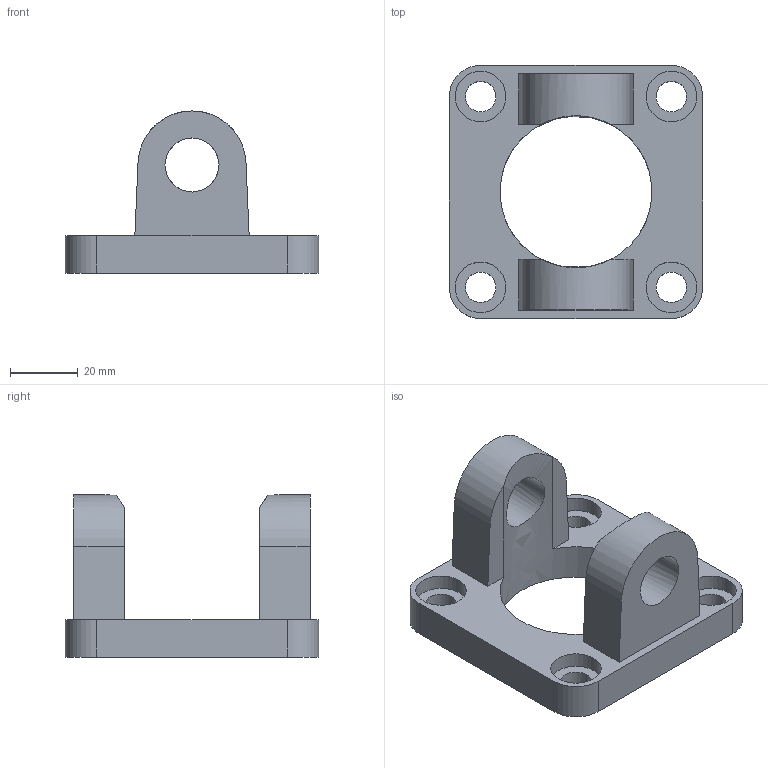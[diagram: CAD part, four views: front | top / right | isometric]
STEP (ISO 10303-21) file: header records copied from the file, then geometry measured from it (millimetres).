
FILE_DESCRIPTION((''),'2;1');
FILE_NAME('I:\Area Tecnica\Documenti\A-Mauro\_Inventor\LIBRERIE\FISSAGGI EUROPE\1500_Ø_08F\1500.63.08F.stp','2007-02-26T14:17:16',('valotma1'),(''),'Autodesk Inventor 11','Autodesk Inventor 11','');
FILE_SCHEMA(('AUTOMOTIVE_DESIGN { 1 0 10303 214 1 1 1 1 }'));
Length unit declared in the file: millimetre
Products named in the file (1): 1500.63
Bounding box: 75 x 75 x 48 mm (x, y, z)
Volume: 63866.6 mm3; surface area: 20376.7 mm2
Topology: 1 solids, 1 shells, 37 faces, 93 edges, 62 vertices
Faces by surface type: plane 16, bspline 15, cylinder 6
Entity records: 1460 total; most frequent: CARTESIAN_POINT 595, ORIENTED_EDGE 162, DIRECTION 158, EDGE_CURVE 81, EDGE_LOOP 66, VERTEX_POINT 61, AXIS2_PLACEMENT_3D 58, VECTOR 42
